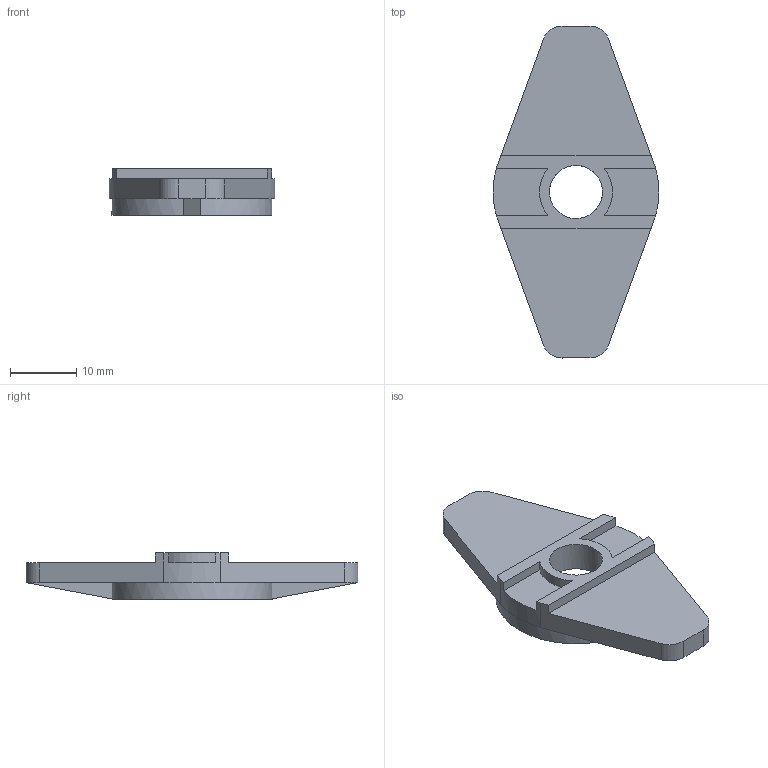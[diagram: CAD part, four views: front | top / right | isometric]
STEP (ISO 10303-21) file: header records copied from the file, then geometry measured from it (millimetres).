
FILE_DESCRIPTION((''),'2;1');
FILE_NAME('C:\Vault Klient\Projekt\Step\300-4020.stp','2009-12-04T14:41:09',('Mathias'),(''),'Autodesk Inventor 2010','Autodesk Inventor 2010','');
FILE_SCHEMA(('CONFIG_CONTROL_DESIGN'));
Length unit declared in the file: millimetre
Products named in the file (1): 300-4020
Bounding box: 25 x 50 x 7 mm (x, y, z)
Volume: 3059.7 mm3; surface area: 2657.4 mm2
Topology: 1 solids, 1 shells, 38 faces, 102 edges, 67 vertices
Faces by surface type: plane 27, cylinder 11
Full cylindrical faces by diameter (mm): 8 x1, 20 x1, 24.125 x1
Entity records: 1188 total; most frequent: DIRECTION 204, CARTESIAN_POINT 201, ORIENTED_EDGE 194, EDGE_CURVE 97, AXIS2_PLACEMENT_3D 68, VECTOR 68, LINE 68, VERTEX_POINT 65
